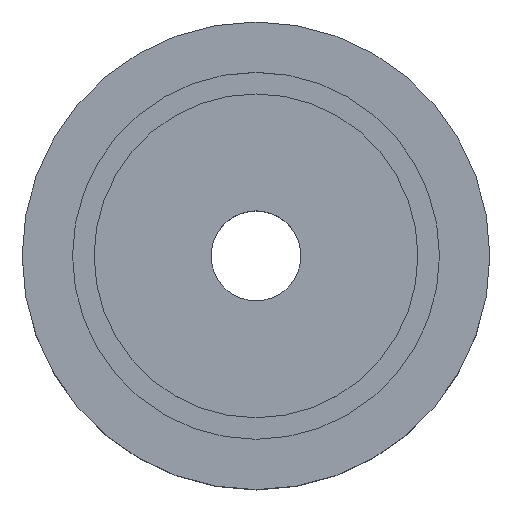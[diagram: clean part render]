
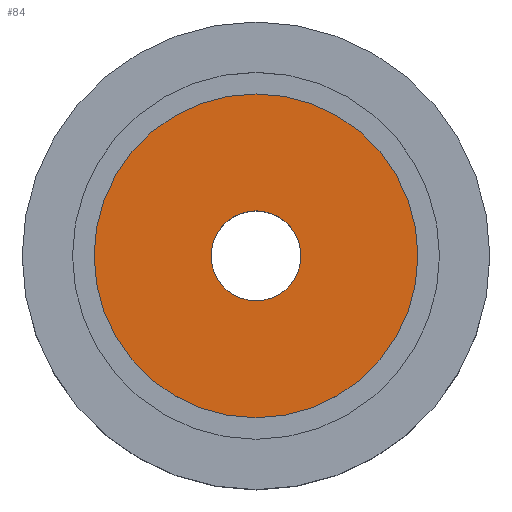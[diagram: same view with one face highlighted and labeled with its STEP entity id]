
A CAD part, top view. The second image highlights one B-rep face of the part: STEP entity #84.
In plain terms, the highlighted planar face has unit normal (0, 0, 1) as drawn and (0, 0, -1) by its records, which use the part's own axes.
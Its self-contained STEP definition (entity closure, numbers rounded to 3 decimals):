
#84 = ADVANCED_FACE( '', ( #166, #167 ), #168, .T. );
#166 = FACE_OUTER_BOUND( '', #246, .T. );
#167 = FACE_BOUND( '', #247, .T. );
#168 = PLANE( '', #248 );
#246 = EDGE_LOOP( '', ( #351 ) );
#247 = EDGE_LOOP( '', ( #352 ) );
#248 = AXIS2_PLACEMENT_3D( '', #353, #354, #355 );
#351 = ORIENTED_EDGE( '', *, *, #397, .T. );
#352 = ORIENTED_EDGE( '', *, *, #421, .F. );
#353 = CARTESIAN_POINT( '', ( -12.5, 0., 0. ) );
#354 = DIRECTION( '', ( 0., 0., -1. ) );
#355 = DIRECTION( '', ( -1., 0., 0. ) );
#397 = EDGE_CURVE( '', #456, #456, #457, .T. );
#421 = EDGE_CURVE( '', #492, #492, #493, .T. );
#456 = VERTEX_POINT( '', #544 );
#457 = CIRCLE( '', #545, 45. );
#492 = VERTEX_POINT( '', #580 );
#493 = CIRCLE( '', #581, 12.5 );
#544 = CARTESIAN_POINT( '', ( -45., 0., 0. ) );
#545 = AXIS2_PLACEMENT_3D( '', #601, #602, #603 );
#580 = CARTESIAN_POINT( '', ( -12.5, 0., 0. ) );
#581 = AXIS2_PLACEMENT_3D( '', #637, #638, #639 );
#601 = CARTESIAN_POINT( '', ( 0., 0., 0. ) );
#602 = DIRECTION( '', ( 0., 0., -1. ) );
#603 = DIRECTION( '', ( -1., 0., 0. ) );
#637 = CARTESIAN_POINT( '', ( 0., 0., 0. ) );
#638 = DIRECTION( '', ( 0., 0., -1. ) );
#639 = DIRECTION( '', ( -1., 0., 0. ) );
